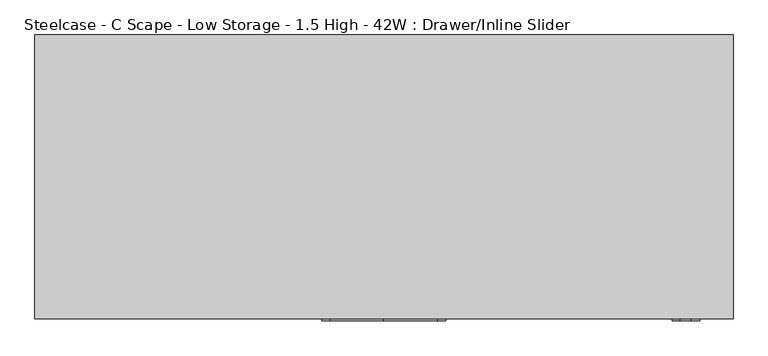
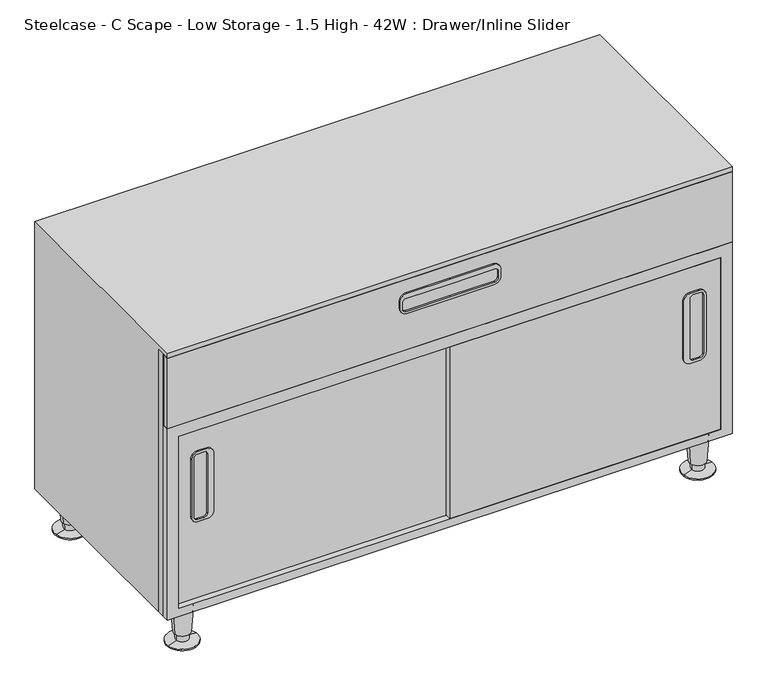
"""IFC4 building model written with IfcOpenShell, lengths in millimetres: furniture geometry, Steelcase - C Scape - Low Storage - 1.5 High - 42W : Drawer/Inline Slider."""

from ifc_helpers import new_model, si_unit, point, frame, frame_2d, origin, place, context, project, spatial, polyline, circle_curve, trimmed, segment, composite_curve, outline, extrude, faceted_brep, source, transform, mapped, element, save
from ifc_brep_helpers import plane_surface, cylinder_surface, revolved_surface, advanced_brep


def steelcase_c_scape_low_storage_1_5_high_42w_drawer_inline_cec51aec(model_context):
    return source(origin(), model_context, "Body", "SolidModel", [
        extrude(outline(composite_curve([segment(polyline([(373.5963095, 972.3248301), (259.2993979, 972.3248301)]), True, "CONTINUOUS"), segment(trimmed(circle_curve(frame_2d((259.2993979, 985.0263804)), 12.7015503), [point((259.2993979, 972.3248301))], [point((246.5978477, 985.0263804))], False, "CARTESIAN"), True, "CONTINUOUS"), segment(polyline([(246.5978477, 985.0263804), (246.5978477, 1001.9160471)]), True, "CONTINUOUS"), segment(trimmed(circle_curve(frame_2d((259.2970725, 1001.9160471)), 12.6992249), [point((246.5978477, 1001.9160471))], [point((259.2970725, 1014.615272))], False, "CARTESIAN"), True, "CONTINUOUS"), segment(polyline([(259.2970725, 1014.615272), (373.5986349, 1014.615272)]), True, "CONTINUOUS"), segment(trimmed(circle_curve(frame_2d((373.5986349, 1001.9160471)), 12.6992249), [point((373.5986349, 1014.615272))], [point((386.2978598, 1001.9160471))], False, "CARTESIAN"), True, "CONTINUOUS"), segment(polyline([(386.2978598, 1001.9160471), (386.2978598, 985.0263804)]), True, "CONTINUOUS"), segment(trimmed(circle_curve(frame_2d((373.5963095, 985.0263804)), 12.7015503), [point((386.2978598, 985.0263804))], [point((373.5963095, 972.3248301))], False, "CARTESIAN"), True, "CONTINUOUS")], self_intersect=False), holes=[composite_curve([segment(polyline([(257.7449507, 984.3915354), (375.0960362, 984.3915354)]), True, "CONTINUOUS"), segment(trimmed(circle_curve(frame_2d((375.0960362, 990.7399851)), 6.3484497), [point((375.0960362, 984.3915354))], [point((381.444486, 990.7399851))], True, "CARTESIAN"), True, "CONTINUOUS"), segment(polyline([(381.444486, 990.7399851), (381.444486, 1003.4415354)]), True, "CONTINUOUS"), segment(trimmed(circle_curve(frame_2d((375.0960362, 1003.4415354)), 6.3484497), [point((381.444486, 1003.4415354))], [point((375.0960362, 1009.7899851))], True, "CARTESIAN"), True, "CONTINUOUS"), segment(polyline([(375.0960362, 1009.7899851), (257.7449507, 1009.7899851)]), True, "CONTINUOUS"), segment(trimmed(circle_curve(frame_2d((257.7449507, 1003.4415354)), 6.3484497), [point((257.7449507, 1009.7899851))], [point((251.396501, 1003.4415354))], True, "CARTESIAN"), True, "CONTINUOUS"), segment(polyline([(251.396501, 1003.4415354), (251.396501, 990.7399851)]), True, "CONTINUOUS"), segment(trimmed(circle_curve(frame_2d((257.7449507, 990.7399851)), 6.3484497), [point((251.396501, 990.7399851))], [point((257.7449507, 984.3915354))], True, "CARTESIAN"), True, "CONTINUOUS")], self_intersect=False)]), frame((0.0, -436.1123329, 0.0), z_axis=(0.0, 1.0, 0.0), x_axis=(0.0, 0.0, 1.0)), (0.0, 0.0, 1.0), 3.0423329),
        extrude(outline(composite_curve([segment(trimmed(circle_curve(frame_2d((373.5963095, 79.8686196)), 12.7015503), [point((373.5963095, 92.5701699))], [point((386.2978598, 79.8686196))], False, "CARTESIAN"), True, "CONTINUOUS"), segment(polyline([(386.2978598, 79.8686196), (386.2978598, 62.9789529)]), True, "CONTINUOUS"), segment(trimmed(circle_curve(frame_2d((373.5986349, 62.9789529)), 12.6992249), [point((386.2978598, 62.9789529))], [point((373.5986349, 50.279728))], False, "CARTESIAN"), True, "CONTINUOUS"), segment(polyline([(373.5986349, 50.279728), (259.2970725, 50.279728)]), True, "CONTINUOUS"), segment(trimmed(circle_curve(frame_2d((259.2970725, 62.9789529)), 12.6992249), [point((259.2970725, 50.279728))], [point((246.5978477, 62.9789529))], False, "CARTESIAN"), True, "CONTINUOUS"), segment(polyline([(246.5978477, 62.9789529), (246.5978477, 79.8686196)]), True, "CONTINUOUS"), segment(trimmed(circle_curve(frame_2d((259.2993979, 79.8686196)), 12.7015503), [point((246.5978477, 79.8686196))], [point((259.2993979, 92.5701699))], False, "CARTESIAN"), True, "CONTINUOUS"), segment(polyline([(259.2993979, 92.5701699), (373.5963095, 92.5701699)]), True, "CONTINUOUS")], self_intersect=False), holes=[composite_curve([segment(trimmed(circle_curve(frame_2d((257.7449507, 74.1550149)), 6.3484497), [point((257.7449507, 80.5034646))], [point((251.396501, 74.1550149))], True, "CARTESIAN"), True, "CONTINUOUS"), segment(polyline([(251.396501, 74.1550149), (251.396501, 61.4534646)]), True, "CONTINUOUS"), segment(trimmed(circle_curve(frame_2d((257.7449507, 61.4534646)), 6.3484497), [point((251.396501, 61.4534646))], [point((257.7449507, 55.1050149))], True, "CARTESIAN"), True, "CONTINUOUS"), segment(polyline([(257.7449507, 55.1050149), (375.0960362, 55.1050149)]), True, "CONTINUOUS"), segment(trimmed(circle_curve(frame_2d((375.0960362, 61.4534646)), 6.3484497), [point((375.0960362, 55.1050149))], [point((381.444486, 61.4534646))], True, "CARTESIAN"), True, "CONTINUOUS"), segment(polyline([(381.444486, 61.4534646), (381.444486, 74.1550149)]), True, "CONTINUOUS"), segment(trimmed(circle_curve(frame_2d((375.0960362, 74.1550149)), 6.3484497), [point((381.444486, 74.1550149))], [point((375.0960362, 80.5034646))], True, "CARTESIAN"), True, "CONTINUOUS"), segment(polyline([(375.0960362, 80.5034646), (257.7449507, 80.5034646)]), True, "CONTINUOUS")], self_intersect=False)]), frame((0.0, -424.6923408, 0.0), z_axis=(0.0, 1.0, 0.0), x_axis=(0.0, 0.0, 1.0)), (0.0, 0.0, 1.0), 3.048),
        extrude(outline(polyline([(76.1999955, 0.0), (76.1999955, 1065.53), (458.7875121, 1065.53), (458.7875121, 0.0), (76.1999955, 0.0)]), holes=[polyline([(92.7100024, 1043.5617285), (92.7100024, 21.3382324), (435.8005068, 21.3382324), (435.8005068, 1043.5617285), (92.7100024, 1043.5617285)])]), frame((0.0, -433.07, 0.0), z_axis=(0.0, 1.0, 0.0), x_axis=(0.0, 0.0, 1.0)), (0.0, 0.0, 1.0), 13.7215265),
        extrude(outline(polyline([(599.44, 532.2710512), (599.44, 0.0), (76.1999955, 0.0), (76.1999955, 1065.53), (599.44, 1065.53), (599.44, 532.2710512)]), holes=[polyline([(92.7100024, 1043.5617285), (92.7100024, 21.3382324), (582.93, 21.3382324), (582.93, 1043.5617285), (92.7100024, 1043.5617285)])]), frame((0.0, -419.3484735, 0.0), z_axis=(0.0, 1.0, 0.0), x_axis=(0.0, 0.0, 1.0)), (0.0, 0.0, 1.0), 14.9862946),
        extrude(outline(composite_curve([segment(trimmed(circle_curve(frame_2d((560.7050073, 450.2147442)), 12.7), [point((573.4050073, 450.2147442))], [point((560.7050073, 437.5147442))], False, "CARTESIAN"), True, "CONTINUOUS"), segment(polyline([(560.7050073, 437.5147442), (546.1000363, 437.5147442)]), True, "CONTINUOUS"), segment(trimmed(circle_curve(frame_2d((546.1000363, 450.2147442)), 12.7), [point((546.1000363, 437.5147442))], [point((533.4000363, 450.2147442))], False, "CARTESIAN"), True, "CONTINUOUS"), segment(polyline([(533.4000363, 450.2147442), (533.4000363, 532.4475), (533.4000363, 614.6802558)]), True, "CONTINUOUS"), segment(trimmed(circle_curve(frame_2d((546.1000363, 614.6802558)), 12.7), [point((533.4000363, 614.6802558))], [point((546.1000363, 627.3802558))], False, "CARTESIAN"), True, "CONTINUOUS"), segment(polyline([(546.1000363, 627.3802558), (560.7050073, 627.3802558)]), True, "CONTINUOUS"), segment(trimmed(circle_curve(frame_2d((560.7050073, 614.6802558)), 12.7), [point((560.7050073, 627.3802558))], [point((573.4050073, 614.6802558))], False, "CARTESIAN"), True, "CONTINUOUS"), segment(polyline([(573.4050073, 614.6802558), (573.4050073, 532.4475), (573.4050073, 450.2147442)]), True, "CONTINUOUS")], self_intersect=False), holes=[composite_curve([segment(trimmed(circle_curve(frame_2d((557.2760257, 448.6923565)), 6.35), [point((557.2760257, 442.3423565))], [point((563.6260257, 448.6923565))], True, "CARTESIAN"), True, "CONTINUOUS"), segment(polyline([(563.6260257, 448.6923565), (563.6260257, 532.4475), (563.6260257, 616.2026435)]), True, "CONTINUOUS"), segment(trimmed(circle_curve(frame_2d((557.2760257, 616.2026435)), 6.35), [point((563.6260257, 616.2026435))], [point((557.2760257, 622.5526435))], True, "CARTESIAN"), True, "CONTINUOUS"), segment(polyline([(557.2760257, 622.5526435), (544.5760136, 622.5526435)]), True, "CONTINUOUS"), segment(trimmed(circle_curve(frame_2d((544.5760136, 616.2026435)), 6.35), [point((544.5760136, 622.5526435))], [point((538.2260136, 616.2026435))], True, "CARTESIAN"), True, "CONTINUOUS"), segment(polyline([(538.2260136, 616.2026435), (538.2260136, 532.4475), (538.2260136, 448.6923565)]), True, "CONTINUOUS"), segment(trimmed(circle_curve(frame_2d((544.5760136, 448.6923565)), 6.35), [point((538.2260136, 448.6923565))], [point((544.5760136, 442.3423565))], True, "CARTESIAN"), True, "CONTINUOUS"), segment(polyline([(544.5760136, 442.3423565), (557.2760257, 442.3423565)]), True, "CONTINUOUS")], self_intersect=False)]), frame((0.0, -436.118, 0.0), z_axis=(0.0, 1.0, 0.0), x_axis=(0.0, 0.0, 1.0)), (0.0, 0.0, 1.0), 3.048),
        advanced_brep(
        [(1038.2598695, -31.5218435, 76.2), (1000.5981305, -37.2840847, 76.2), (1019.429, -34.4029641, 76.2), (1034.3095214, -32.1262463, 19.05), (1004.5484786, -36.6796819, 19.05), (1031.8799345, -32.4979728, 19.05), (1006.9780655, -36.3079555, 19.05), (1031.191165, -32.6033544, 5.7545598), (1007.666835, -36.2025738, 5.7545598), (1048.5400485, -29.9489775, 2.5119506), (990.3179515, -38.8569507, 2.5119506), (1048.5400485, -29.9489775, 0.0), (990.3179515, -38.8569507, 0.0), (1019.429, -34.4029641, 0.0)],
        [
            (0, 1, circle_curve(frame((1019.429, -34.4029641, 76.2), z_axis=(0.0, 0.0, 1.0), x_axis=(0.0, -1.0, 0.0)), 19.05)),
            (1, 2),
            (2, 0),
            (1, 0, circle_curve(frame((1019.429, -34.4029641, 76.2), z_axis=(0.0, 0.0, 1.0), x_axis=(0.0, -1.0, 0.0)), 19.05)),
            (3, 4, circle_curve(frame((1019.429, -34.4029641, 19.05), z_axis=(0.0, 0.0, 1.0), x_axis=(0.0, -1.0, 0.0)), 15.0536827)),
            (4, 1),
            (0, 3),
            (4, 3, circle_curve(frame((1019.429, -34.4029641, 19.05), z_axis=(0.0, 0.0, 1.0), x_axis=(0.0, -1.0, 0.0)), 15.0536827)),
            (5, 6, circle_curve(frame((1019.429, -34.4029641, 19.05), z_axis=(0.0, 0.0, 1.0), x_axis=(0.0, -1.0, 0.0)), 12.5958232)),
            (6, 4),
            (3, 5),
            (6, 5, circle_curve(frame((1019.429, -34.4029641, 19.05), z_axis=(0.0, 0.0, 1.0), x_axis=(0.0, -1.0, 0.0)), 12.5958232)),
            (7, 8, circle_curve(frame((1019.429, -34.4029641, 5.7545598), z_axis=(0.0, 0.0, 1.0), x_axis=(0.0, -1.0, 0.0)), 11.8990387)),
            (8, 6),
            (5, 7),
            (8, 7, circle_curve(frame((1019.429, -34.4029641, 5.7545598), z_axis=(0.0, 0.0, 1.0), x_axis=(0.0, -1.0, 0.0)), 11.8990387)),
            (9, 10, circle_curve(frame((1019.429, -34.4029641, 2.5119506), z_axis=(0.0, 0.0, 1.0), x_axis=(0.0, -1.0, 0.0)), 29.4498071)),
            (10, 8),
            (7, 9),
            (10, 9, circle_curve(frame((1019.429, -34.4029641, 2.5119506), z_axis=(0.0, 0.0, 1.0), x_axis=(0.0, -1.0, 0.0)), 29.4498071)),
            (11, 12, circle_curve(frame((1019.429, -34.4029641, 0.0), z_axis=(0.0, 0.0, 1.0), x_axis=(0.0, -1.0, 0.0)), 29.4498071)),
            (12, 10),
            (9, 11),
            (12, 11, circle_curve(frame((1019.429, -34.4029641, 0.0), z_axis=(0.0, 0.0, 1.0), x_axis=(0.0, -1.0, 0.0)), 29.4498071)),
            (13, 12),
            (11, 13),
        ],
        [
            plane_surface(frame((1019.429, -34.4029641, 76.2), z_axis=(0.0, 0.0, 1.0), x_axis=(0.0, -1.0, 0.0))),
            revolved_surface(polyline([(1019.429, -53.4529641, 76.2), (1019.429, -49.4566468, 19.05)]), (1019.429, -34.4029641, 25.4), (0.0, 0.0, -1.0)),
            plane_surface(frame((1019.429, -34.4029641, 19.05), z_axis=(0.0, 0.0, -1.0), x_axis=(0.0, -1.0, 0.0))),
            revolved_surface(polyline([(1019.429, -46.9987873, 19.05), (1019.429, -46.3020028, 5.7545598)]), (1019.429, -34.4029641, 25.4), (0.0, 0.0, -1.0)),
            revolved_surface(polyline([(1019.429, -46.3020028, 5.7545598), (1019.429, -63.8527712, 2.5119506)]), (1019.429, -34.4029641, 25.4), (0.0, 0.0, -1.0)),
            cylinder_surface(frame((1019.429, -34.4029641, 25.4), z_axis=(0.0, 0.0, -1.0), x_axis=(0.0, -1.0, 0.0)), 29.4498071),
            plane_surface(frame((1019.429, -34.4029641, 0.0), z_axis=(0.0, 0.0, -1.0), x_axis=(0.0, -1.0, 0.0))),
        ],
        [
            (0, [[1, 2, 3]]),
            (0, [[4, -3, -2]]),
            (1, [[5, 6, -1, 7]]),
            (1, [[8, -7, -4, -6]]),
            (2, [[9, 10, -5, 11]]),
            (2, [[12, -11, -8, -10]]),
            (3, [[13, 14, -9, 15]]),
            (3, [[16, -15, -12, -14]]),
            (4, [[17, 18, -13, 19]]),
            (4, [[20, -19, -16, -18]]),
            (5, [[21, 22, -17, 23]]),
            (5, [[24, -23, -20, -22]]),
            (6, [[25, -21, 26]]),
            (6, [[-26, -24, -25]]),
        ],
    ),
        advanced_brep(
        [(1038.2598695, -397.1702762, 76.2), (1000.5981305, -402.9325174, 76.2), (1019.429, -400.0513968, 76.2), (1034.3095214, -397.774679, 19.05), (1004.5484786, -402.3281146, 19.05), (1031.8799345, -398.1464055, 19.05), (1006.9780655, -401.9563882, 19.05), (1031.191165, -398.2517871, 5.7545598), (1007.666835, -401.8510065, 5.7545598), (1048.5400485, -395.5974102, 2.5119506), (990.3179515, -404.5053834, 2.5119506), (1048.5400485, -395.5974102, 0.0), (990.3179515, -404.5053834, 0.0), (1019.429, -400.0513968, 0.0)],
        [
            (0, 1, circle_curve(frame((1019.429, -400.0513968, 76.2), z_axis=(0.0, 0.0, 1.0), x_axis=(0.0, -1.0, 0.0)), 19.05)),
            (1, 2),
            (2, 0),
            (1, 0, circle_curve(frame((1019.429, -400.0513968, 76.2), z_axis=(0.0, 0.0, 1.0), x_axis=(0.0, -1.0, 0.0)), 19.05)),
            (3, 4, circle_curve(frame((1019.429, -400.0513968, 19.05), z_axis=(0.0, 0.0, 1.0), x_axis=(0.0, -1.0, 0.0)), 15.0536827)),
            (4, 1),
            (0, 3),
            (4, 3, circle_curve(frame((1019.429, -400.0513968, 19.05), z_axis=(0.0, 0.0, 1.0), x_axis=(0.0, -1.0, 0.0)), 15.0536827)),
            (5, 6, circle_curve(frame((1019.429, -400.0513968, 19.05), z_axis=(0.0, 0.0, 1.0), x_axis=(0.0, -1.0, 0.0)), 12.5958232)),
            (6, 4),
            (3, 5),
            (6, 5, circle_curve(frame((1019.429, -400.0513968, 19.05), z_axis=(0.0, 0.0, 1.0), x_axis=(0.0, -1.0, 0.0)), 12.5958232)),
            (7, 8, circle_curve(frame((1019.429, -400.0513968, 5.7545598), z_axis=(0.0, 0.0, 1.0), x_axis=(0.0, -1.0, 0.0)), 11.8990387)),
            (8, 6),
            (5, 7),
            (8, 7, circle_curve(frame((1019.429, -400.0513968, 5.7545598), z_axis=(0.0, 0.0, 1.0), x_axis=(0.0, -1.0, 0.0)), 11.8990387)),
            (9, 10, circle_curve(frame((1019.429, -400.0513968, 2.5119506), z_axis=(0.0, 0.0, 1.0), x_axis=(0.0, -1.0, 0.0)), 29.4498071)),
            (10, 8),
            (7, 9),
            (10, 9, circle_curve(frame((1019.429, -400.0513968, 2.5119506), z_axis=(0.0, 0.0, 1.0), x_axis=(0.0, -1.0, 0.0)), 29.4498071)),
            (11, 12, circle_curve(frame((1019.429, -400.0513968, 0.0), z_axis=(0.0, 0.0, 1.0), x_axis=(0.0, -1.0, 0.0)), 29.4498071)),
            (12, 10),
            (9, 11),
            (12, 11, circle_curve(frame((1019.429, -400.0513968, 0.0), z_axis=(0.0, 0.0, 1.0), x_axis=(0.0, -1.0, 0.0)), 29.4498071)),
            (13, 12),
            (11, 13),
        ],
        [
            plane_surface(frame((1019.429, -400.0513968, 76.2), z_axis=(0.0, 0.0, 1.0), x_axis=(0.0, -1.0, 0.0))),
            revolved_surface(polyline([(1019.429, -419.1013968, 76.2), (1019.429, -415.1050795, 19.05)]), (1019.429, -400.0513968, 25.4), (0.0, 0.0, -1.0)),
            plane_surface(frame((1019.429, -400.0513968, 19.05), z_axis=(0.0, 0.0, -1.0), x_axis=(0.0, -1.0, 0.0))),
            revolved_surface(polyline([(1019.429, -412.64722, 19.05), (1019.429, -411.9504355, 5.7545598)]), (1019.429, -400.0513968, 25.4), (0.0, 0.0, -1.0)),
            revolved_surface(polyline([(1019.429, -411.9504355, 5.7545598), (1019.429, -429.5012039, 2.5119506)]), (1019.429, -400.0513968, 25.4), (0.0, 0.0, -1.0)),
            cylinder_surface(frame((1019.429, -400.0513968, 25.4), z_axis=(0.0, 0.0, -1.0), x_axis=(0.0, -1.0, 0.0)), 29.4498071),
            plane_surface(frame((1019.429, -400.0513968, 0.0), z_axis=(0.0, 0.0, -1.0), x_axis=(0.0, -1.0, 0.0))),
        ],
        [
            (0, [[1, 2, 3]]),
            (0, [[4, -3, -2]]),
            (1, [[5, 6, -1, 7]]),
            (1, [[8, -7, -4, -6]]),
            (2, [[9, 10, -5, 11]]),
            (2, [[12, -11, -8, -10]]),
            (3, [[13, 14, -9, 15]]),
            (3, [[16, -15, -12, -14]]),
            (4, [[17, 18, -13, 19]]),
            (4, [[20, -19, -16, -18]]),
            (5, [[21, 22, -17, 23]]),
            (5, [[24, -23, -20, -22]]),
            (6, [[25, -21, 26]]),
            (6, [[-26, -24, -25]]),
        ],
    ),
        advanced_brep(
        [(65.5422821, -397.1702762, 76.2), (27.8805432, -402.9325174, 76.2), (46.7114126, -400.0513968, 76.2), (61.5919341, -397.774679, 19.05), (31.8308912, -402.3281146, 19.05), (59.1623471, -398.1464055, 19.05), (34.2604781, -401.9563882, 19.05), (58.4735776, -398.2517871, 5.7545598), (34.9492476, -401.8510065, 5.7545598), (75.8224611, -395.5974102, 2.5119506), (17.6003641, -404.5053834, 2.5119506), (75.8224611, -395.5974102, 0.0), (17.6003641, -404.5053834, 0.0), (46.7114126, -400.0513968, 0.0)],
        [
            (0, 1, circle_curve(frame((46.7114126, -400.0513968, 76.2), z_axis=(0.0, 0.0, 1.0), x_axis=(0.0, -1.0, 0.0)), 19.05)),
            (1, 2),
            (2, 0),
            (1, 0, circle_curve(frame((46.7114126, -400.0513968, 76.2), z_axis=(0.0, 0.0, 1.0), x_axis=(0.0, -1.0, 0.0)), 19.05)),
            (3, 4, circle_curve(frame((46.7114126, -400.0513968, 19.05), z_axis=(0.0, 0.0, 1.0), x_axis=(0.0, -1.0, 0.0)), 15.0536827)),
            (4, 1),
            (0, 3),
            (4, 3, circle_curve(frame((46.7114126, -400.0513968, 19.05), z_axis=(0.0, 0.0, 1.0), x_axis=(0.0, -1.0, 0.0)), 15.0536827)),
            (5, 6, circle_curve(frame((46.7114126, -400.0513968, 19.05), z_axis=(0.0, 0.0, 1.0), x_axis=(0.0, -1.0, 0.0)), 12.5958232)),
            (6, 4),
            (3, 5),
            (6, 5, circle_curve(frame((46.7114126, -400.0513968, 19.05), z_axis=(0.0, 0.0, 1.0), x_axis=(0.0, -1.0, 0.0)), 12.5958232)),
            (7, 8, circle_curve(frame((46.7114126, -400.0513968, 5.7545598), z_axis=(0.0, 0.0, 1.0), x_axis=(0.0, -1.0, 0.0)), 11.8990387)),
            (8, 6),
            (5, 7),
            (8, 7, circle_curve(frame((46.7114126, -400.0513968, 5.7545598), z_axis=(0.0, 0.0, 1.0), x_axis=(0.0, -1.0, 0.0)), 11.8990387)),
            (9, 10, circle_curve(frame((46.7114126, -400.0513968, 2.5119506), z_axis=(0.0, 0.0, 1.0), x_axis=(0.0, -1.0, 0.0)), 29.4498071)),
            (10, 8),
            (7, 9),
            (10, 9, circle_curve(frame((46.7114126, -400.0513968, 2.5119506), z_axis=(0.0, 0.0, 1.0), x_axis=(0.0, -1.0, 0.0)), 29.4498071)),
            (11, 12, circle_curve(frame((46.7114126, -400.0513968, 0.0), z_axis=(0.0, 0.0, 1.0), x_axis=(0.0, -1.0, 0.0)), 29.4498071)),
            (12, 10),
            (9, 11),
            (12, 11, circle_curve(frame((46.7114126, -400.0513968, 0.0), z_axis=(0.0, 0.0, 1.0), x_axis=(0.0, -1.0, 0.0)), 29.4498071)),
            (13, 12),
            (11, 13),
        ],
        [
            plane_surface(frame((46.7114126, -400.0513968, 76.2), z_axis=(0.0, 0.0, 1.0), x_axis=(0.0, -1.0, 0.0))),
            revolved_surface(polyline([(46.7114126, -419.1013968, 76.2), (46.7114126, -415.1050795, 19.05)]), (46.7114126, -400.0513968, 25.4), (0.0, 0.0, -1.0)),
            plane_surface(frame((46.7114126, -400.0513968, 19.05), z_axis=(0.0, 0.0, -1.0), x_axis=(0.0, -1.0, 0.0))),
            revolved_surface(polyline([(46.7114126, -412.64722, 19.05), (46.7114126, -411.9504355, 5.7545598)]), (46.7114126, -400.0513968, 25.4), (0.0, 0.0, -1.0)),
            revolved_surface(polyline([(46.7114126, -411.9504355, 5.7545598), (46.7114126, -429.5012039, 2.5119506)]), (46.7114126, -400.0513968, 25.4), (0.0, 0.0, -1.0)),
            cylinder_surface(frame((46.7114126, -400.0513968, 25.4), z_axis=(0.0, 0.0, -1.0), x_axis=(0.0, -1.0, 0.0)), 29.4498071),
            plane_surface(frame((46.7114126, -400.0513968, 0.0), z_axis=(0.0, 0.0, -1.0), x_axis=(0.0, -1.0, 0.0))),
        ],
        [
            (0, [[1, 2, 3]]),
            (0, [[4, -3, -2]]),
            (1, [[5, 6, -1, 7]]),
            (1, [[8, -7, -4, -6]]),
            (2, [[9, 10, -5, 11]]),
            (2, [[12, -11, -8, -10]]),
            (3, [[13, 14, -9, 15]]),
            (3, [[16, -15, -12, -14]]),
            (4, [[17, 18, -13, 19]]),
            (4, [[20, -19, -16, -18]]),
            (5, [[21, 22, -17, 23]]),
            (5, [[24, -23, -20, -22]]),
            (6, [[25, -21, 26]]),
            (6, [[-26, -24, -25]]),
        ],
    ),
        advanced_brep(
        [(65.5422821, -31.5218435, 76.2), (27.8805432, -37.2840847, 76.2), (46.7114126, -34.4029641, 76.2), (61.5919341, -32.1262463, 19.05), (31.8308912, -36.6796819, 19.05), (59.1623471, -32.4979728, 19.05), (34.2604781, -36.3079555, 19.05), (58.4735776, -32.6033544, 5.7545598), (34.9492476, -36.2025738, 5.7545598), (75.8224611, -29.9489775, 2.5119506), (17.6003641, -38.8569507, 2.5119506), (75.8224611, -29.9489775, 0.0), (17.6003641, -38.8569507, 0.0), (46.7114126, -34.4029641, 0.0)],
        [
            (0, 1, circle_curve(frame((46.7114126, -34.4029641, 76.2), z_axis=(0.0, 0.0, 1.0), x_axis=(0.0, -1.0, 0.0)), 19.05)),
            (1, 2),
            (2, 0),
            (1, 0, circle_curve(frame((46.7114126, -34.4029641, 76.2), z_axis=(0.0, 0.0, 1.0), x_axis=(0.0, -1.0, 0.0)), 19.05)),
            (3, 4, circle_curve(frame((46.7114126, -34.4029641, 19.05), z_axis=(0.0, 0.0, 1.0), x_axis=(0.0, -1.0, 0.0)), 15.0536827)),
            (4, 1),
            (0, 3),
            (4, 3, circle_curve(frame((46.7114126, -34.4029641, 19.05), z_axis=(0.0, 0.0, 1.0), x_axis=(0.0, -1.0, 0.0)), 15.0536827)),
            (5, 6, circle_curve(frame((46.7114126, -34.4029641, 19.05), z_axis=(0.0, 0.0, 1.0), x_axis=(0.0, -1.0, 0.0)), 12.5958232)),
            (6, 4),
            (3, 5),
            (6, 5, circle_curve(frame((46.7114126, -34.4029641, 19.05), z_axis=(0.0, 0.0, 1.0), x_axis=(0.0, -1.0, 0.0)), 12.5958232)),
            (7, 8, circle_curve(frame((46.7114126, -34.4029641, 5.7545598), z_axis=(0.0, 0.0, 1.0), x_axis=(0.0, -1.0, 0.0)), 11.8990387)),
            (8, 6),
            (5, 7),
            (8, 7, circle_curve(frame((46.7114126, -34.4029641, 5.7545598), z_axis=(0.0, 0.0, 1.0), x_axis=(0.0, -1.0, 0.0)), 11.8990387)),
            (9, 10, circle_curve(frame((46.7114126, -34.4029641, 2.5119506), z_axis=(0.0, 0.0, 1.0), x_axis=(0.0, -1.0, 0.0)), 29.4498071)),
            (10, 8),
            (7, 9),
            (10, 9, circle_curve(frame((46.7114126, -34.4029641, 2.5119506), z_axis=(0.0, 0.0, 1.0), x_axis=(0.0, -1.0, 0.0)), 29.4498071)),
            (11, 12, circle_curve(frame((46.7114126, -34.4029641, 0.0), z_axis=(0.0, 0.0, 1.0), x_axis=(0.0, -1.0, 0.0)), 29.4498071)),
            (12, 10),
            (9, 11),
            (12, 11, circle_curve(frame((46.7114126, -34.4029641, 0.0), z_axis=(0.0, 0.0, 1.0), x_axis=(0.0, -1.0, 0.0)), 29.4498071)),
            (13, 12),
            (11, 13),
        ],
        [
            plane_surface(frame((46.7114126, -34.4029641, 76.2), z_axis=(0.0, 0.0, 1.0), x_axis=(0.0, -1.0, 0.0))),
            revolved_surface(polyline([(46.7114126, -53.4529641, 76.2), (46.7114126, -49.4566468, 19.05)]), (46.7114126, -34.4029641, 25.4), (0.0, 0.0, -1.0)),
            plane_surface(frame((46.7114126, -34.4029641, 19.05), z_axis=(0.0, 0.0, -1.0), x_axis=(0.0, -1.0, 0.0))),
            revolved_surface(polyline([(46.7114126, -46.9987873, 19.05), (46.7114126, -46.3020028, 5.7545598)]), (46.7114126, -34.4029641, 25.4), (0.0, 0.0, -1.0)),
            revolved_surface(polyline([(46.7114126, -46.3020028, 5.7545598), (46.7114126, -63.8527712, 2.5119506)]), (46.7114126, -34.4029641, 25.4), (0.0, 0.0, -1.0)),
            cylinder_surface(frame((46.7114126, -34.4029641, 25.4), z_axis=(0.0, 0.0, -1.0), x_axis=(0.0, -1.0, 0.0)), 29.4498071),
            plane_surface(frame((46.7114126, -34.4029641, 0.0), z_axis=(0.0, 0.0, -1.0), x_axis=(0.0, -1.0, 0.0))),
        ],
        [
            (0, [[1, 2, 3]]),
            (0, [[4, -3, -2]]),
            (1, [[5, 6, -1, 7]]),
            (1, [[8, -7, -4, -6]]),
            (2, [[9, 10, -5, 11]]),
            (2, [[12, -11, -8, -10]]),
            (3, [[13, 14, -9, 15]]),
            (3, [[16, -15, -12, -14]]),
            (4, [[17, 18, -13, 19]]),
            (4, [[20, -19, -16, -18]]),
            (5, [[21, 22, -17, 23]]),
            (5, [[24, -23, -20, -22]]),
            (6, [[25, -21, 26]]),
            (6, [[-26, -24, -25]]),
        ],
    ),
        extrude(outline(polyline([(1065.53, -422.5233329), (1065.53, -433.07), (0.0, -433.07), (0.0, -422.5233329), (1065.53, -422.5233329)])), frame((0.0, 0.0, 458.7875121), z_axis=(0.0, 0.0, 1.0), x_axis=(1.0, 0.0, 0.0)), (0.0, 0.0, 1.0), 140.6524879),
        faceted_brep([(0.0, 0.0, 609.6), (1065.53, 0.0, 609.6), (1065.53, 0.0, 458.7875121), (1065.53, 0.0, 435.8005068), (1065.53, 0.0, 76.2), (0.0, 0.0, 76.2), (0.0, 0.0, 435.8005068), (0.0, 0.0, 458.7875121), (0.0, -404.362179, 76.2), (0.0, -404.362179, 599.44), (0.0, -433.07, 599.44), (0.0, -433.07, 609.6), (1065.53, -404.362179, 76.2), (1065.53, -404.362179, 599.44), (1043.5617285, -404.362179, 599.44), (1043.5617285, -404.362179, 458.7875121), (21.3382324, -404.362179, 458.7875121), (21.3382324, -404.362179, 599.44), (1043.5617285, -404.362179, 435.8005068), (1043.5617285, -404.362179, 92.7100024), (21.3382324, -404.362179, 92.7100024), (21.3382324, -404.362179, 435.8005068), (21.3382324, -9.525, 599.44), (21.3382324, -9.525, 458.7875121), (21.3382324, -9.525, 435.8005068), (21.3382324, -9.525, 92.7100024), (1043.5617285, -9.525, 599.44), (1043.5617285, -9.525, 458.7875121), (1043.5617285, -9.525, 435.8005068), (1043.5617285, -9.525, 92.7100024), (1065.53, -433.07, 609.6), (1065.53, -433.07, 599.44)], [[[0, 1, 2, 3, 4, 5, 6, 7]], [[5, 8, 9, 10, 11, 0, 7, 6]], [[8, 12, 13, 14, 15, 16, 17, 9], [18, 19, 20, 21]], [[22, 17, 16, 23]], [[24, 21, 20, 25]], [[26, 22, 23, 27]], [[28, 24, 25, 29]], [[14, 26, 27, 15]], [[18, 28, 29, 19]], [[12, 4, 3, 2, 1, 30, 31, 13]], [[1, 0, 11, 30]], [[31, 10, 9, 17, 22, 26, 14, 13]], [[30, 11, 10, 31]], [[16, 15, 27, 23]], [[18, 21, 24, 28]], [[20, 19, 29, 25]], [[4, 12, 8, 5]]]),
        extrude(outline(polyline([(532.4475, -422.5233329), (1043.5617285, -422.5233329), (1043.5617285, -433.07), (532.4475, -433.07), (532.4475, -422.5233329)])), frame((0.0, 0.0, 92.7100024), z_axis=(0.0, 0.0, 1.0), x_axis=(1.0, 0.0, 0.0)), (0.0, 0.0, 1.0), 343.0905044),
        extrude(outline(polyline([(532.4475, -415.2912402), (532.4475, -421.6443408), (21.3382324, -421.6443408), (21.3382324, -415.2912402), (532.4475, -415.2912402)])), frame((0.0, 0.0, 92.7100024), z_axis=(0.0, 0.0, 1.0), x_axis=(1.0, 0.0, 0.0)), (0.0, 0.0, 1.0), 343.0905044),
    ])


if __name__ == "__main__":
    model = new_model("IFC4")
    model_context = context("Model", 3, world=origin())
    ifc_project = project(units=[si_unit("LENGTHUNIT", "METRE", prefix="MILLI")], contexts=[model_context])
    site = spatial("IfcSite", under=ifc_project)
    building = spatial("IfcBuilding", under=site)
    placement = place(None, origin())
    steelcase_c_scape_low_storage_1_5_high_42w_drawer_inline_shape = steelcase_c_scape_low_storage_1_5_high_42w_drawer_inline_cec51aec(model_context)
    element("IfcFurniture", 1, ObjectType="Steelcase - C Scape - Low Storage - 1.5 High - 42W : Drawer/Inline Slider", at=placement, inside=building, context=model_context, shape_type="MappedRepresentation", body=[
        mapped(steelcase_c_scape_low_storage_1_5_high_42w_drawer_inline_shape, transform((0.0, 0.0, 0.0), x_axis=(1.0, 0.0, 0.0), y_axis=(0.0, 1.0, 0.0), z_axis=(0.0, 0.0, 1.0))),
    ])
    save(model, "model.ifc")
